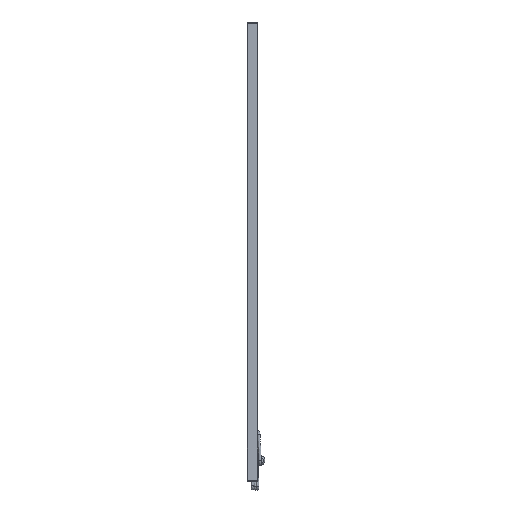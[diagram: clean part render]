
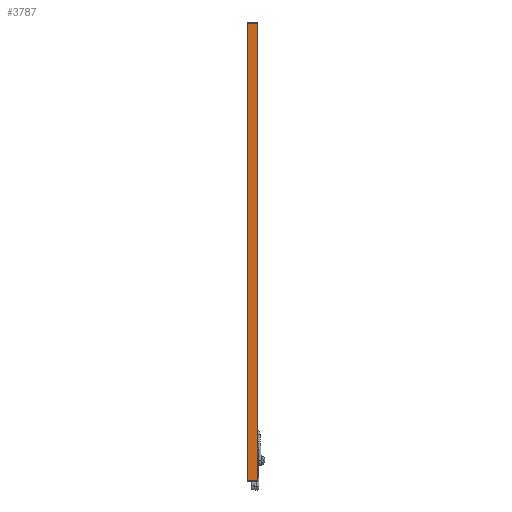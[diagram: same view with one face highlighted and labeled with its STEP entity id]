
A CAD part, front view. The second image highlights one B-rep face of the part: STEP entity #3787.
In plain terms, the highlighted planar face has unit normal (0, -1, 0).
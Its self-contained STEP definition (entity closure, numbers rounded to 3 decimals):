
#3509=CARTESIAN_POINT('',(18.421,0.,1778.0));
#3510=VERTEX_POINT('',#3509);
#3518=CARTESIAN_POINT('',(18.421,0.,0.0));
#3519=VERTEX_POINT('',#3518);
#3520=CARTESIAN_POINT('',(18.421,0.0,1778.0));
#3521=DIRECTION('',(0.0,0.0,-1.0));
#3522=VECTOR('',#3521,1778.0);
#3523=LINE('',#3520,#3522);
#3524=EDGE_CURVE('',#3510,#3519,#3523,.T.);
#3550=CARTESIAN_POINT('',(-18.421,0.,0.0));
#3551=VERTEX_POINT('',#3550);
#3552=CARTESIAN_POINT('',(-18.421,0.,0.0));
#3553=DIRECTION('',(1.0,0.0,0.0));
#3554=VECTOR('',#3553,36.842);
#3555=LINE('',#3552,#3554);
#3556=EDGE_CURVE('',#3551,#3519,#3555,.T.);
#3764=CARTESIAN_POINT('',(18.735,0.0,0.0));
#3765=DIRECTION('',(0.0,-1.0,0.0));
#3766=DIRECTION('',(0.0,0.0,-1.0));
#3767=AXIS2_PLACEMENT_3D('',#3764,#3765,#3766);
#3768=PLANE('',#3767);
#3769=ORIENTED_EDGE('',*,*,#3524,.F.);
#3770=CARTESIAN_POINT('',(-18.421,0.,1778.0));
#3771=VERTEX_POINT('',#3770);
#3772=CARTESIAN_POINT('',(18.421,0.,1778.0));
#3773=DIRECTION('',(-1.0,0.0,0.0));
#3774=VECTOR('',#3773,36.842);
#3775=LINE('',#3772,#3774);
#3776=EDGE_CURVE('',#3510,#3771,#3775,.T.);
#3777=ORIENTED_EDGE('',*,*,#3776,.T.);
#3778=CARTESIAN_POINT('',(-18.421,0.0,0.0));
#3779=DIRECTION('',(0.0,0.0,1.0));
#3780=VECTOR('',#3779,1778.0);
#3781=LINE('',#3778,#3780);
#3782=EDGE_CURVE('',#3551,#3771,#3781,.T.);
#3783=ORIENTED_EDGE('',*,*,#3782,.F.);
#3784=ORIENTED_EDGE('',*,*,#3556,.T.);
#3785=EDGE_LOOP('',(#3769,#3777,#3783,#3784));
#3786=FACE_OUTER_BOUND('',#3785,.T.);
#3787=ADVANCED_FACE('',(#3786),#3768,.T.);
